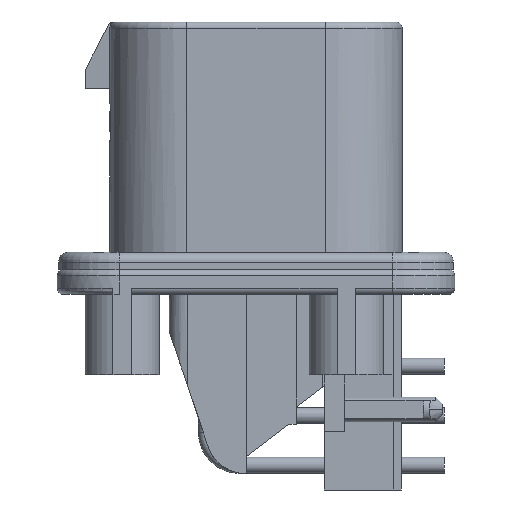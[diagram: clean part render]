
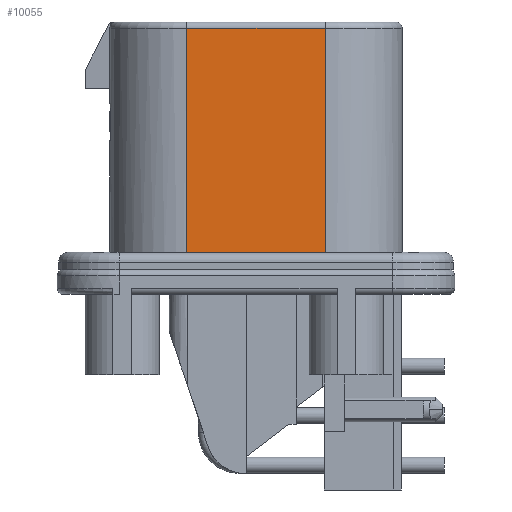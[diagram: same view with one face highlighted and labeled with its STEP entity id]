
A CAD part, left-side view. The second image highlights one B-rep face of the part: STEP entity #10055.
In plain terms, the highlighted planar face has unit normal (-1, 0, 0).
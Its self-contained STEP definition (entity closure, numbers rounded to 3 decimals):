
#1014=DIRECTION('',(0.,-1.,0.));
#1015=VECTOR('',#1014,8.65);
#1016=CARTESIAN_POINT('',(-11.7,5.6,-20.));
#1017=LINE('',#1016,#1015);
#2674=DIRECTION('',(0.,0.,-1.));
#2675=VECTOR('',#2674,19.5);
#2676=CARTESIAN_POINT('',(-11.7,5.6,-0.5));
#2677=LINE('',#2676,#2675);
#2702=DIRECTION('',(0.,-1.,0.));
#2703=VECTOR('',#2702,11.2);
#2704=CARTESIAN_POINT('',(-11.7,5.6,-0.5));
#2705=LINE('',#2704,#2703);
#2706=DIRECTION('',(0.,0.,-1.));
#2707=VECTOR('',#2706,18.75);
#2708=CARTESIAN_POINT('',(-11.7,-5.6,-0.5));
#2709=LINE('',#2708,#2707);
#2710=DIRECTION('',(0.,-1.,0.));
#2711=VECTOR('',#2710,2.55);
#2712=CARTESIAN_POINT('',(-11.7,-3.05,-19.25));
#2713=LINE('',#2712,#2711);
#2714=DIRECTION('',(0.,0.,1.));
#2715=VECTOR('',#2714,0.75);
#2716=CARTESIAN_POINT('',(-11.7,-3.05,-20.));
#2717=LINE('',#2716,#2715);
#5525=CARTESIAN_POINT('',(-11.7,-5.6,-19.25));
#5527=VERTEX_POINT('',#5525);
#5529=CARTESIAN_POINT('',(-11.7,-3.05,-19.25));
#5530=VERTEX_POINT('',#5529);
#5547=CARTESIAN_POINT('',(-11.7,5.6,-20.));
#5548=CARTESIAN_POINT('',(-11.7,-3.05,-20.));
#5549=VERTEX_POINT('',#5547);
#5550=VERTEX_POINT('',#5548);
#6209=CARTESIAN_POINT('',(-11.7,5.6,-0.5));
#6210=VERTEX_POINT('',#6209);
#6213=CARTESIAN_POINT('',(-11.7,-5.6,-0.5));
#6214=VERTEX_POINT('',#6213);
#10040=CARTESIAN_POINT('',(-11.7,-5.6,-20.));
#10041=DIRECTION('',(-1.,0.,0.));
#10042=DIRECTION('',(0.,1.,0.));
#10043=AXIS2_PLACEMENT_3D('',#10040,#10041,#10042);
#10044=PLANE('',#10043);
#10045=ORIENTED_EDGE('',*,*,#9975,.F.);
#10046=ORIENTED_EDGE('',*,*,#10009,.T.);
#10047=ORIENTED_EDGE('',*,*,#8456,.T.);
#10049=ORIENTED_EDGE('',*,*,#10048,.F.);
#10051=ORIENTED_EDGE('',*,*,#10050,.F.);
#10052=ORIENTED_EDGE('',*,*,#8107,.F.);
#10053=EDGE_LOOP('',(#10045,#10046,#10047,#10049,#10051,#10052));
#10054=FACE_OUTER_BOUND('',#10053,.F.);
#10055=ADVANCED_FACE('',(#10054),#10044,.T.);
#8107=EDGE_CURVE('',#5549,#5550,#1017,.T.);
#8456=EDGE_CURVE('',#6214,#5527,#2709,.T.);
#9975=EDGE_CURVE('',#6210,#5549,#2677,.T.);
#10009=EDGE_CURVE('',#6210,#6214,#2705,.T.);
#10048=EDGE_CURVE('',#5530,#5527,#2713,.T.);
#10050=EDGE_CURVE('',#5550,#5530,#2717,.T.);
